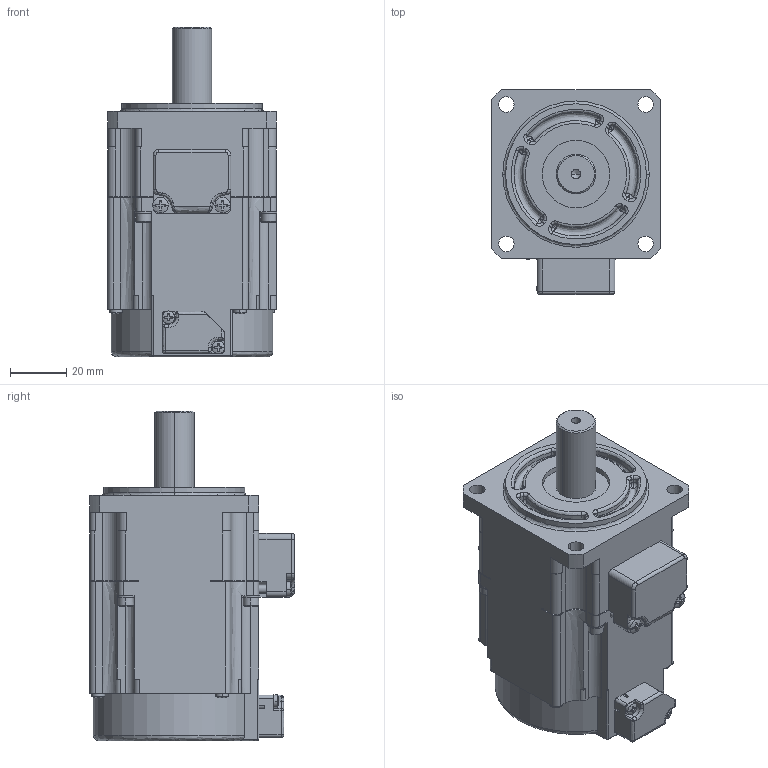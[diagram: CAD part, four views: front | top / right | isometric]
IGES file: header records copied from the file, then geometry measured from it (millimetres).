
Start section:  PTC IGES file: tsm4261n7800_outline.igs
Global section: file name: tsm4261n7800_outline.igs; native system: Creo Parametric by PTC Inc.; preprocessor: 2022484; author: tec1068; organization: Unknown; date: 20240215.095915; units: millimetre
Bounding box: 60.3 x 72.85 x 117.2 mm (x, y, z)
Surface area: 32354.4 mm2 (no closed solid volume)
Topology: 0 solids, 0 shells, 666 faces, 3506 edges, 3504 vertices
Faces by surface type: bspline 340, revolution 326
